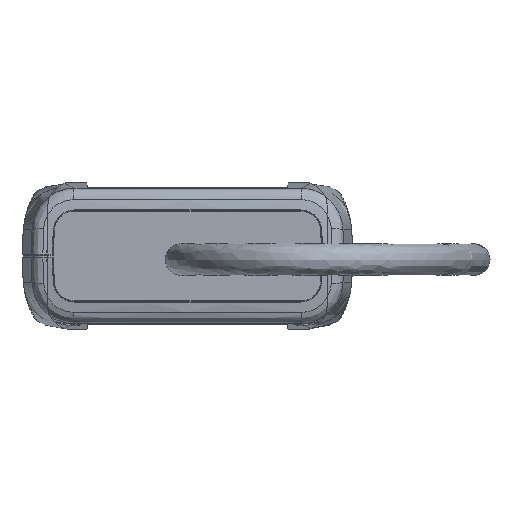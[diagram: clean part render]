
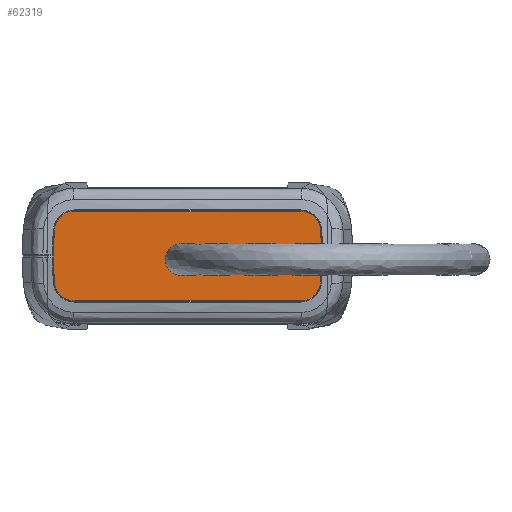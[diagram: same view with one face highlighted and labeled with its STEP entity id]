
A CAD part, front view. The second image highlights one B-rep face of the part: STEP entity #62319.
In plain terms, the highlighted planar face has unit normal (0, -1, 0) as drawn and (0, 0, -1) by its records, which use the part's own axes.
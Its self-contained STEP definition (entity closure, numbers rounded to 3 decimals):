
#2908=B_SPLINE_CURVE_WITH_KNOTS('',3,(#134796,#134797,#134798,#134799,#134800,
#134801,#134802,#134803,#134804,#134805,#134806,#134807),.UNSPECIFIED.,
 .F.,.F.,(4,2,2,2,2,4),(0.,0.092,0.183,
0.332,0.458,0.592),.UNSPECIFIED.);
#2909=B_SPLINE_CURVE_WITH_KNOTS('',3,(#134886,#134887,#134888,#134889,#134890,
#134891,#134892,#134893,#134894,#134895,#134896,#134897),.UNSPECIFIED.,
 .F.,.F.,(4,2,2,2,2,4),(0.,0.118,0.23,
0.362,0.443,0.524),.UNSPECIFIED.);
#2910=B_SPLINE_CURVE_WITH_KNOTS('',3,(#134968,#134969,#134970,#134971,#134972,
#134973,#134974,#134975,#134976,#134977,#134978,#134979),.UNSPECIFIED.,
 .F.,.F.,(4,2,2,2,2,4),(0.,0.092,0.183,
0.332,0.458,0.592),.UNSPECIFIED.);
#2911=B_SPLINE_CURVE_WITH_KNOTS('',3,(#135058,#135059,#135060,#135061,#135062,
#135063,#135064,#135065,#135066,#135067,#135068,#135069),.UNSPECIFIED.,
 .F.,.F.,(4,2,2,2,2,4),(0.,0.118,0.23,
0.362,0.443,0.524),.UNSPECIFIED.);
#6642=FACE_OUTER_BOUND('',#10125,.T.);
#10125=EDGE_LOOP('',(#55528,#55529,#55530,#55531,#55532,#55533,#55534,#55535,
#55536,#55537,#55538,#55539));
#16748=LINE('',#134811,#23381);
#16750=LINE('',#134815,#23383);
#16752=LINE('',#134819,#23385);
#16755=LINE('',#134901,#23388);
#16758=LINE('',#134983,#23391);
#16760=LINE('',#134987,#23393);
#16762=LINE('',#134991,#23395);
#16765=LINE('',#135072,#23398);
#23381=VECTOR('',#78452,4.634);
#23383=VECTOR('',#78456,0.498);
#23385=VECTOR('',#78460,4.628);
#23388=VECTOR('',#78465,43.06);
#23391=VECTOR('',#78470,4.631);
#23393=VECTOR('',#78474,0.499);
#23395=VECTOR('',#78478,4.631);
#23398=VECTOR('',#78483,43.06);
#29212=VERTEX_POINT('',#134793);
#29213=VERTEX_POINT('',#134795);
#29214=VERTEX_POINT('',#134810);
#29215=VERTEX_POINT('',#134814);
#29216=VERTEX_POINT('',#134818);
#29217=VERTEX_POINT('',#134885);
#29218=VERTEX_POINT('',#134900);
#29219=VERTEX_POINT('',#134967);
#29220=VERTEX_POINT('',#134982);
#29221=VERTEX_POINT('',#134986);
#29222=VERTEX_POINT('',#134990);
#29223=VERTEX_POINT('',#135057);
#37992=EDGE_CURVE('',#29213,#29212,#2908,.T.);
#37994=EDGE_CURVE('',#29214,#29213,#16748,.T.);
#37996=EDGE_CURVE('',#29215,#29214,#16750,.T.);
#37998=EDGE_CURVE('',#29216,#29215,#16752,.T.);
#38000=EDGE_CURVE('',#29217,#29216,#2909,.T.);
#38002=EDGE_CURVE('',#29218,#29217,#16755,.T.);
#38004=EDGE_CURVE('',#29219,#29218,#2910,.T.);
#38006=EDGE_CURVE('',#29220,#29219,#16758,.T.);
#38008=EDGE_CURVE('',#29221,#29220,#16760,.T.);
#38010=EDGE_CURVE('',#29222,#29221,#16762,.T.);
#38012=EDGE_CURVE('',#29223,#29222,#2911,.T.);
#38014=EDGE_CURVE('',#29212,#29223,#16765,.T.);
#55528=ORIENTED_EDGE('',*,*,#38000,.T.);
#55529=ORIENTED_EDGE('',*,*,#37998,.T.);
#55530=ORIENTED_EDGE('',*,*,#37996,.T.);
#55531=ORIENTED_EDGE('',*,*,#37994,.T.);
#55532=ORIENTED_EDGE('',*,*,#37992,.T.);
#55533=ORIENTED_EDGE('',*,*,#38014,.T.);
#55534=ORIENTED_EDGE('',*,*,#38012,.T.);
#55535=ORIENTED_EDGE('',*,*,#38010,.T.);
#55536=ORIENTED_EDGE('',*,*,#38008,.T.);
#55537=ORIENTED_EDGE('',*,*,#38006,.T.);
#55538=ORIENTED_EDGE('',*,*,#38004,.T.);
#55539=ORIENTED_EDGE('',*,*,#38002,.T.);
#58060=PLANE('',#65610);
#62319=ADVANCED_FACE('',(#6642),#58060,.T.);
#65610=AXIS2_PLACEMENT_3D('',#135073,#78484,#78485);
#78452=DIRECTION('',(-0.045,-0.999,0.));
#78456=DIRECTION('',(0.,-1.,0.));
#78460=DIRECTION('',(0.045,-0.999,0.));
#78465=DIRECTION('',(1.,0.,0.));
#78470=DIRECTION('',(0.045,0.999,0.));
#78474=DIRECTION('',(0.,1.,0.));
#78478=DIRECTION('',(-0.045,0.999,0.));
#78483=DIRECTION('',(-1.,0.,0.));
#78484=DIRECTION('center_axis',(0.,0.,-1.));
#78485=DIRECTION('ref_axis',(1.,0.,0.));
#134793=CARTESIAN_POINT('',(21.53,-8.563,-45.847));
#134795=CARTESIAN_POINT('',(25.393,-4.875,-45.847));
#134796=CARTESIAN_POINT('Ctrl Pts',(25.393,-4.875,
-45.847));
#134797=CARTESIAN_POINT('Ctrl Pts',(25.38,-5.181,
-45.847));
#134798=CARTESIAN_POINT('Ctrl Pts',(25.328,-5.487,
-45.847));
#134799=CARTESIAN_POINT('Ctrl Pts',(25.157,-6.078,
-45.847));
#134800=CARTESIAN_POINT('Ctrl Pts',(25.038,-6.36,
-45.847));
#134801=CARTESIAN_POINT('Ctrl Pts',(24.632,-7.065,
-45.847));
#134802=CARTESIAN_POINT('Ctrl Pts',(24.295,-7.45,
-45.847));
#134803=CARTESIAN_POINT('Ctrl Pts',(23.559,-8.019,
-45.847));
#134804=CARTESIAN_POINT('Ctrl Pts',(23.189,-8.217,
-45.847));
#134805=CARTESIAN_POINT('Ctrl Pts',(22.357,-8.499,-45.847));
#134806=CARTESIAN_POINT('Ctrl Pts',(21.925,-8.563,
-45.847));
#134807=CARTESIAN_POINT('Ctrl Pts',(21.53,-8.563,
-45.847));
#134810=CARTESIAN_POINT('',(25.6,-0.246,-45.847));
#134811=CARTESIAN_POINT('',(25.6,-0.246,-45.847));
#134814=CARTESIAN_POINT('',(25.6,0.252,-45.847));
#134815=CARTESIAN_POINT('',(25.6,0.252,-45.847));
#134818=CARTESIAN_POINT('',(25.393,4.875,-45.847));
#134819=CARTESIAN_POINT('',(25.393,4.875,-45.847));
#134885=CARTESIAN_POINT('',(21.53,8.563,-45.847));
#134886=CARTESIAN_POINT('Ctrl Pts',(21.53,8.563,-45.847));
#134887=CARTESIAN_POINT('Ctrl Pts',(21.925,8.563,-45.847));
#134888=CARTESIAN_POINT('Ctrl Pts',(22.357,8.499,-45.847));
#134889=CARTESIAN_POINT('Ctrl Pts',(23.189,8.217,-45.847));
#134890=CARTESIAN_POINT('Ctrl Pts',(23.559,8.019,-45.847));
#134891=CARTESIAN_POINT('Ctrl Pts',(24.295,7.45,-45.847));
#134892=CARTESIAN_POINT('Ctrl Pts',(24.633,7.064,-45.847));
#134893=CARTESIAN_POINT('Ctrl Pts',(25.038,6.36,-45.847));
#134894=CARTESIAN_POINT('Ctrl Pts',(25.157,6.078,-45.847));
#134895=CARTESIAN_POINT('Ctrl Pts',(25.328,5.487,-45.847));
#134896=CARTESIAN_POINT('Ctrl Pts',(25.38,5.181,-45.847));
#134897=CARTESIAN_POINT('Ctrl Pts',(25.393,4.875,-45.847));
#134900=CARTESIAN_POINT('',(-21.53,8.563,-45.847));
#134901=CARTESIAN_POINT('',(-21.53,8.563,-45.847));
#134967=CARTESIAN_POINT('',(-25.393,4.875,-45.847));
#134968=CARTESIAN_POINT('Ctrl Pts',(-25.393,4.875,
-45.847));
#134969=CARTESIAN_POINT('Ctrl Pts',(-25.38,5.181,
-45.847));
#134970=CARTESIAN_POINT('Ctrl Pts',(-25.328,5.488,
-45.847));
#134971=CARTESIAN_POINT('Ctrl Pts',(-25.157,6.078,
-45.847));
#134972=CARTESIAN_POINT('Ctrl Pts',(-25.037,6.361,
-45.847));
#134973=CARTESIAN_POINT('Ctrl Pts',(-24.632,7.065,-45.847));
#134974=CARTESIAN_POINT('Ctrl Pts',(-24.295,7.45,
-45.847));
#134975=CARTESIAN_POINT('Ctrl Pts',(-23.559,8.019,-45.847));
#134976=CARTESIAN_POINT('Ctrl Pts',(-23.189,8.217,
-45.847));
#134977=CARTESIAN_POINT('Ctrl Pts',(-22.357,8.499,
-45.847));
#134978=CARTESIAN_POINT('Ctrl Pts',(-21.925,8.563,-45.847));
#134979=CARTESIAN_POINT('Ctrl Pts',(-21.53,8.563,
-45.847));
#134982=CARTESIAN_POINT('',(-25.6,0.249,-45.847));
#134983=CARTESIAN_POINT('',(-25.6,0.249,-45.847));
#134986=CARTESIAN_POINT('',(-25.6,-0.249,-45.847));
#134987=CARTESIAN_POINT('',(-25.6,-0.249,-45.847));
#134990=CARTESIAN_POINT('',(-25.393,-4.875,-45.847));
#134991=CARTESIAN_POINT('',(-25.393,-4.875,-45.847));
#135057=CARTESIAN_POINT('',(-21.53,-8.563,-45.847));
#135058=CARTESIAN_POINT('Ctrl Pts',(-21.53,-8.563,
-45.847));
#135059=CARTESIAN_POINT('Ctrl Pts',(-21.925,-8.563,
-45.847));
#135060=CARTESIAN_POINT('Ctrl Pts',(-22.357,-8.499,
-45.847));
#135061=CARTESIAN_POINT('Ctrl Pts',(-23.189,-8.217,
-45.847));
#135062=CARTESIAN_POINT('Ctrl Pts',(-23.559,-8.019,
-45.847));
#135063=CARTESIAN_POINT('Ctrl Pts',(-24.295,-7.45,
-45.847));
#135064=CARTESIAN_POINT('Ctrl Pts',(-24.633,-7.064,
-45.847));
#135065=CARTESIAN_POINT('Ctrl Pts',(-25.038,-6.36,
-45.847));
#135066=CARTESIAN_POINT('Ctrl Pts',(-25.157,-6.078,
-45.847));
#135067=CARTESIAN_POINT('Ctrl Pts',(-25.328,-5.487,
-45.847));
#135068=CARTESIAN_POINT('Ctrl Pts',(-25.38,-5.181,
-45.847));
#135069=CARTESIAN_POINT('Ctrl Pts',(-25.393,-4.875,
-45.847));
#135072=CARTESIAN_POINT('',(21.53,-8.563,-45.847));
#135073=CARTESIAN_POINT('Origin',(0.,0.,-45.847));
